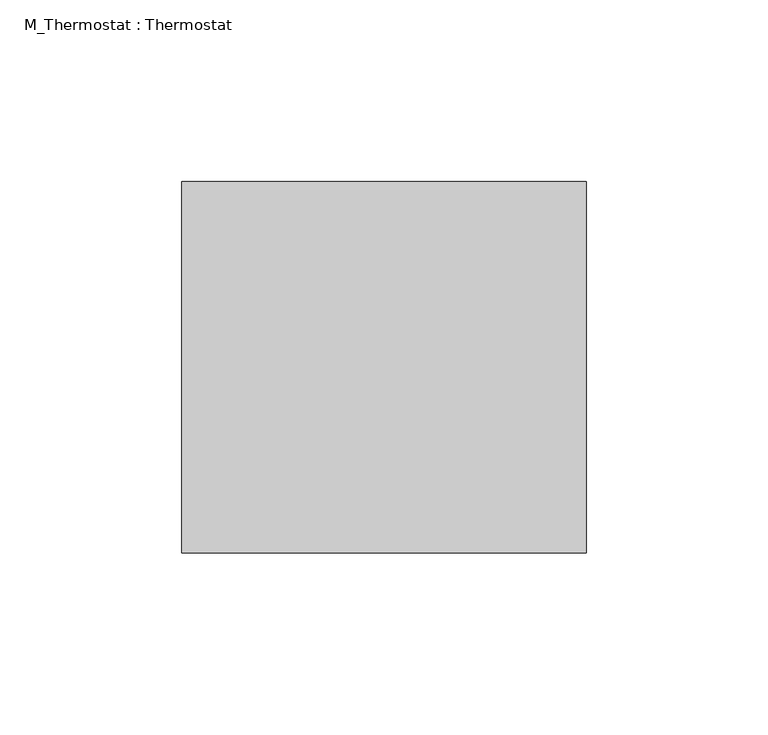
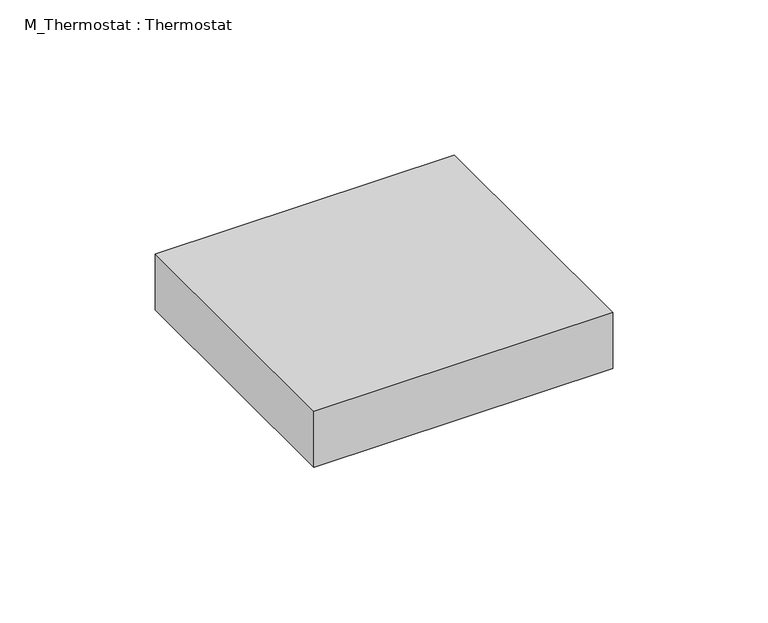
"""IFC4 building model written with IfcOpenShell, lengths in millimetres: outlet geometry, M_Thermostat : Thermostat."""

import ifcopenshell
import ifcopenshell.guid

model = None  # the IFC model being written
_history = None  # IfcOwnerHistory: only IFC2X3 demands one
_inside = {}  # id of a spatial element -> (the spatial element, [elements in it])
_under = {}  # id of a project, library or spatial element -> (it, [spatial elements below it])
_declared = {}  # id of a project -> (the project, [libraries it declares])
_typed = {}  # id of a type object -> (the type object, [elements of that type])
_made_of = {}  # id of a material, layer set ... -> (it, [elements and type objects made of it])


def new_model(schema):
    """Start an empty IFC model of exactly this schema.

    Asked for "IFC4X3", IfcOpenShell would pick the latest addendum, in which some entities
    have other attributes; the version numbers below select the first issue.
    IFC2X3 requires an IfcOwnerHistory on every rooted entity: one is made here for all.
    """
    global model, _history
    if schema == "IFC4X3":
        model = ifcopenshell.file(schema_version=(4, 3, 0, 0))
    else:
        model = ifcopenshell.file(schema=schema)
    _inside.clear()
    _under.clear()
    _declared.clear()
    _typed.clear()
    _made_of.clear()
    _history = None
    if model.schema == "IFC2X3":
        org = make("IfcOrganization", Name="unknown")
        user = make(
            "IfcPersonAndOrganization",
            ThePerson=make("IfcPerson", FamilyName="unknown"),
            TheOrganization=org,
        )
        app = make(
            "IfcApplication",
            ApplicationDeveloper=org,
            Version="unknown",
            ApplicationFullName="unknown",
            ApplicationIdentifier="unknown",
        )
        _history = make(
            "IfcOwnerHistory",
            OwningUser=user,
            OwningApplication=app,
            ChangeAction="ADDED",
            CreationDate=0,
        )
    return model


def make(cls, **values):
    """One entity of the class cls with the attributes given. An attribute that is None is left unset."""
    return model.create_entity(
        cls, **{name: value for name, value in values.items() if value is not None}
    )


def rooted(cls, **values):
    """An entity with a GlobalId (a new one), such as an element, a storey or a relation."""
    return make(cls, GlobalId=ifcopenshell.guid.new(), OwnerHistory=_history, **values)


def si_unit(unit_type, name, prefix=None):
    """IfcSIUnit, for example si_unit("LENGTHUNIT", "METRE", prefix="MILLI")."""
    return make("IfcSIUnit", UnitType=unit_type, Prefix=prefix, Name=name)


def assignment(units):
    """IfcUnitAssignment: the units of a project."""
    return None if units is None else make("IfcUnitAssignment", Units=units)


def point(xyz):
    """IfcCartesianPoint."""
    return None if xyz is None else make("IfcCartesianPoint", Coordinates=xyz)


def direction(xyz):
    """IfcDirection."""
    return None if xyz is None else make("IfcDirection", DirectionRatios=xyz)


def frame(location, z_axis=None, x_axis=None):
    """IfcAxis2Placement3D, a coordinate frame: its origin and axes. An axis left out is left unset."""
    return make(
        "IfcAxis2Placement3D",
        Location=point(location),
        Axis=direction(z_axis),
        RefDirection=direction(x_axis),
    )


def origin():
    """The frame at (0, 0, 0) with its axes left unset."""
    return frame((0.0, 0.0, 0.0))


def origin_with_axes():
    """The frame at (0, 0, 0) with the z axis (0, 0, 1) and the x axis (1, 0, 0) written out."""
    return frame((0.0, 0.0, 0.0), z_axis=(0.0, 0.0, 1.0), x_axis=(1.0, 0.0, 0.0))


def place(relative_to, where):
    """IfcLocalPlacement: puts the frame where relative to a parent placement (None: the world)."""
    return make(
        "IfcLocalPlacement", PlacementRelTo=relative_to, RelativePlacement=where
    )


def context(
    kind, dimensions, precision=None, world=None, true_north=None, identifier=None
):
    """IfcGeometricRepresentationContext, for example the 3D "Model" context."""
    return make(
        "IfcGeometricRepresentationContext",
        ContextIdentifier=identifier,
        ContextType=kind,
        CoordinateSpaceDimension=dimensions,
        Precision=precision,
        WorldCoordinateSystem=world,
        TrueNorth=true_north,
    )


def project(units=None, contexts=None):
    """IfcProject with its units and contexts."""
    return rooted(
        "IfcProject",
        Name="project",
        RepresentationContexts=contexts,
        UnitsInContext=assignment(units),
    )


def spatial(cls, under=None, at=None, **own):
    """A site, building, storey or space (cls), placed at a placement, below another one or the project."""
    s = rooted(cls, ObjectPlacement=at, **own)
    if under is not None:
        _under.setdefault(under.id(), (under, []))[1].append(s)
    return s


def polyline(points):
    """IfcPolyline through the points."""
    return make("IfcPolyline", Points=[point(p) for p in points])


def outline(outer, holes=None, kind="AREA"):
    """IfcArbitraryClosedProfileDef: a profile drawn as a closed curve; with holes, ...WithVoids."""
    if holes is None:
        return make("IfcArbitraryClosedProfileDef", ProfileType=kind, OuterCurve=outer)
    return make(
        "IfcArbitraryProfileDefWithVoids",
        ProfileType=kind,
        OuterCurve=outer,
        InnerCurves=holes,
    )


def extrude(swept, where, along, depth):
    """IfcExtrudedAreaSolid: the profile swept, set in the frame where, extruded along a direction by depth."""
    return make(
        "IfcExtrudedAreaSolid",
        SweptArea=swept,
        Position=where,
        ExtrudedDirection=direction(along),
        Depth=depth,
    )


def shape(context_of_items, identifier, shape_type, items):
    """IfcShapeRepresentation: the items that make up one representation, for example the "Body"."""
    return make(
        "IfcShapeRepresentation",
        ContextOfItems=context_of_items,
        RepresentationIdentifier=identifier,
        RepresentationType=shape_type,
        Items=items,
    )


def source(mapping_origin, context_of_items, identifier, shape_type, items):
    """IfcRepresentationMap: a shape defined once, which mapped items show again and again."""
    return make(
        "IfcRepresentationMap",
        MappingOrigin=mapping_origin,
        MappedRepresentation=shape(context_of_items, identifier, shape_type, items),
    )


def transform(
    local_origin,
    x_axis=None,
    y_axis=None,
    z_axis=None,
    scale=None,
    scale2=None,
    scale3=None,
    uniform=True,
):
    """IfcCartesianTransformationOperator3D, or its non-uniform kind. x_axis, y_axis, z_axis: its Axis1, 2, 3."""
    if uniform:
        return make(
            "IfcCartesianTransformationOperator3D",
            Axis1=direction(x_axis),
            Axis2=direction(y_axis),
            LocalOrigin=point(local_origin),
            Scale=scale,
            Axis3=direction(z_axis),
        )
    return make(
        "IfcCartesianTransformationOperator3DnonUniform",
        Axis1=direction(x_axis),
        Axis2=direction(y_axis),
        LocalOrigin=point(local_origin),
        Scale=scale,
        Axis3=direction(z_axis),
        Scale2=scale2,
        Scale3=scale3,
    )


def mapped(mapping_source, mapping_target):
    """IfcMappedItem: shows the shape of a source again, moved by a transform."""
    return make(
        "IfcMappedItem", MappingSource=mapping_source, MappingTarget=mapping_target
    )


def made_of(thing, what):
    """Note that an element or type object is made of a material, layer set ...; save() writes the relation."""
    if what is not None:
        _made_of.setdefault(what.id(), (what, []))[1].append(thing)
    return thing


def element(
    cls,
    number,
    at=None,
    inside=None,
    cuts=None,
    type_object=None,
    material=None,
    context=None,
    identifier="Body",
    shape_type=None,
    held_by="IfcProductDefinitionShape",
    body=None,
    shapes=None,
    **own,
):
    """One element of the class cls, such as IfcWall. Its Tag is "e" and its number.

    at: its placement. inside: the storey or other place that contains it. cuts: it is an
    opening in that element (IfcRelVoidsElement). A single representation is given by context,
    identifier, shape_type and body (its items); several are given by shapes. held_by: the class
    of the entity that holds the representations. save() writes the other relations.
    """
    e = rooted(cls, Tag="e%d" % number, ObjectPlacement=at, **own)
    if body is not None:
        shapes = [shape(context, identifier, shape_type, body)]
    if shapes is not None:
        e.Representation = make(held_by, Representations=shapes)
    if inside is not None:
        _inside.setdefault(inside.id(), (inside, []))[1].append(e)
    if cuts is not None:
        rooted(
            "IfcRelVoidsElement", RelatingBuildingElement=cuts, RelatedOpeningElement=e
        )
    if type_object is not None:
        _typed.setdefault(type_object.id(), (type_object, []))[1].append(e)
    return made_of(e, material)


def aggregate(whole, parts):
    """IfcRelAggregates: a whole, such as a stair, and the parts it consists of."""
    return rooted("IfcRelAggregates", RelatingObject=whole, RelatedObjects=parts)


def save(model, path):
    """Write the relations noted so far, then the file.

    IfcRelAggregates (storeys below a building ...), IfcRelContainedInSpatialStructure (elements
    in a storey), IfcRelDefinesByType, IfcRelAssociatesMaterial and IfcRelDeclares: one each for
    every whole, place, type object, material and project.
    """
    for whole, parts in _under.values():
        aggregate(whole, parts)
    for where, things in _inside.values():
        rooted(
            "IfcRelContainedInSpatialStructure",
            RelatedElements=things,
            RelatingStructure=where,
        )
    for kind, things in _typed.values():
        rooted("IfcRelDefinesByType", RelatedObjects=things, RelatingType=kind)
    for what, things in _made_of.values():
        rooted("IfcRelAssociatesMaterial", RelatedObjects=things, RelatingMaterial=what)
    for by, libraries in _declared.values():
        rooted("IfcRelDeclares", RelatingContext=by, RelatedDefinitions=libraries)
    model.write(path)


def m_thermostat_thermostat_b920d14f(model_context):
    return source(origin(), model_context, "Body", "SweptSolid", [
        extrude(outline(polyline([(55.5, -102.0), (-55.5, -102.0), (-55.5, 0.0), (55.5, 0.0), (55.5, -102.0)])), origin_with_axes(), (0.0, 0.0, 1.0), 22.0),
    ])


if __name__ == "__main__":
    model = new_model("IFC4")
    model_context = context("Model", 3, world=origin())
    ifc_project = project(units=[si_unit("LENGTHUNIT", "METRE", prefix="MILLI")], contexts=[model_context])
    site = spatial("IfcSite", under=ifc_project)
    building = spatial("IfcBuilding", under=site)
    placement = place(None, origin())
    m_thermostat_thermostat_shape = m_thermostat_thermostat_b920d14f(model_context)
    element("IfcOutlet", 1, ObjectType="M_Thermostat : Thermostat", at=placement, inside=building, context=model_context, shape_type="MappedRepresentation", body=[
        mapped(m_thermostat_thermostat_shape, transform((0.0, 0.0, 0.0), x_axis=(1.0, 0.0, 0.0), y_axis=(0.0, 1.0, 0.0), z_axis=(0.0, 0.0, 1.0))),
    ])
    save(model, "model.ifc")
